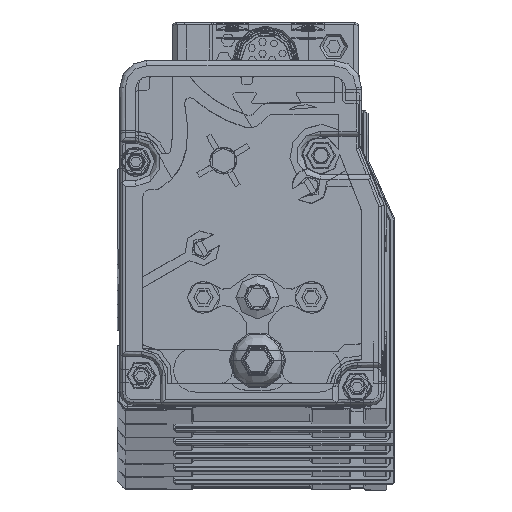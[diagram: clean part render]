
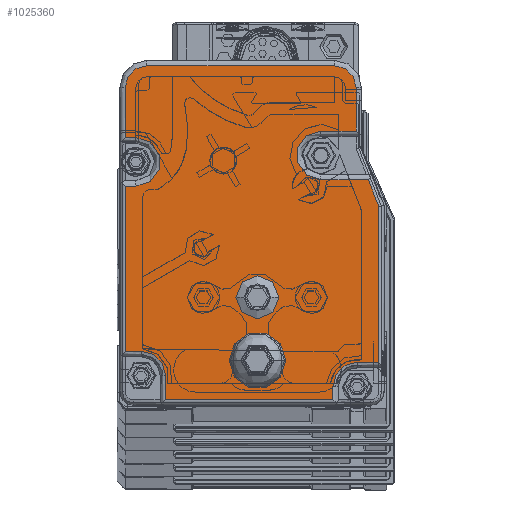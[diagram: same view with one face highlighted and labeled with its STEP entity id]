
A CAD part, top view. The second image highlights one B-rep face of the part: STEP entity #1025360.
In plain terms, the highlighted planar face has unit normal (0, 0, 1).
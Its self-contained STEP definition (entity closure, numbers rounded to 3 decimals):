
#1023250=CARTESIAN_POINT('',(-20.265,1.758,
3972.39));
#1023260=DIRECTION('',(0.,0.,-1.));
#1023270=DIRECTION('',(-1.,0.,0.));
#1023280=AXIS2_PLACEMENT_3D('',#1023250,#1023260,#1023270);
#1023290=PLANE('',#1023280);
#1023300=CARTESIAN_POINT('',(-44.056,10.421,
3972.39));
#1023310=DIRECTION('',(0.,0.,-1.));
#1023320=DIRECTION('',(-1.,0.,0.));
#1023330=AXIS2_PLACEMENT_3D('',#1023300,#1023310,#1023320);
#1023340=CIRCLE('',#1023330,5.);
#1023350=CARTESIAN_POINT('',(-49.056,10.421,
3972.39));
#1023360=VERTEX_POINT('',#1023350);
#1023370=CARTESIAN_POINT('',(-39.056,10.421,
3972.39));
#1023380=VERTEX_POINT('',#1023370);
#1023390=EDGE_CURVE('',#1023360,#1023380,#1023340,.T.);
#1023400=ORIENTED_EDGE('',*,*,#1023390,.T.);
#1023410=EDGE_CURVE('',#1023380,#1023360,#1023340,.T.);
#1023420=ORIENTED_EDGE('',*,*,#1023410,.T.);
#1023430=EDGE_LOOP('',(#1023420,#1023400));
#1023440=FACE_BOUND('',#1023430,.T.);
#1023450=CARTESIAN_POINT('',(-44.059,22.124,
3972.39));
#1023460=DIRECTION('',(0.,0.,1.));
#1023470=DIRECTION('',(-1.,0.,0.));
#1023480=AXIS2_PLACEMENT_3D('',#1023450,#1023460,#1023470);
#1023490=CIRCLE('',#1023480,4.);
#1023500=CARTESIAN_POINT('',(-40.059,22.124,
3972.39));
#1023510=VERTEX_POINT('',#1023500);
#1023520=CARTESIAN_POINT('',(-48.059,22.124,
3972.39));
#1023530=VERTEX_POINT('',#1023520);
#1023540=EDGE_CURVE('',#1023510,#1023530,#1023490,.T.);
#1023550=ORIENTED_EDGE('',*,*,#1023540,.F.);
#1023560=EDGE_CURVE('',#1023530,#1023510,#1023490,.T.);
#1023570=ORIENTED_EDGE('',*,*,#1023560,.F.);
#1023580=EDGE_LOOP('',(#1023570,#1023550));
#1023590=FACE_BOUND('',#1023580,.T.);
#1023600=CARTESIAN_POINT('',(-61.059,2.124,
3972.39));
#1023610=DIRECTION('',(0.,-1.,0.));
#1023620=VECTOR('',#1023610,1.);
#1023630=LINE('',#1023600,#1023620);
#1023640=CARTESIAN_POINT('',(-61.059,7.624,
3972.39));
#1023650=VERTEX_POINT('',#1023640);
#1023660=CARTESIAN_POINT('',(-61.059,3.124,
3972.39));
#1023670=VERTEX_POINT('',#1023660);
#1023680=EDGE_CURVE('',#1023650,#1023670,#1023630,.T.);
#1023690=ORIENTED_EDGE('',*,*,#1023680,.T.);
#1023700=CARTESIAN_POINT('',(-65.559,7.624,
3972.39));
#1023710=DIRECTION('',(0.,0.,-1.));
#1023720=DIRECTION('',(-1.,0.,0.));
#1023730=AXIS2_PLACEMENT_3D('',#1023700,#1023710,#1023720);
#1023740=CIRCLE('',#1023730,4.5);
#1023750=CARTESIAN_POINT('',(-65.559,12.124,
3972.39));
#1023760=VERTEX_POINT('',#1023750);
#1023770=EDGE_CURVE('',#1023760,#1023650,#1023740,.T.);
#1023780=ORIENTED_EDGE('',*,*,#1023770,.T.);
#1023790=CARTESIAN_POINT('',(-20.559,12.124,
3972.39));
#1023800=DIRECTION('',(1.,0.,0.));
#1023810=VECTOR('',#1023800,1.);
#1023820=LINE('',#1023790,#1023810);
#1023830=CARTESIAN_POINT('',(-68.559,12.124,
3972.39));
#1023840=VERTEX_POINT('',#1023830);
#1023850=EDGE_CURVE('',#1023840,#1023760,#1023820,.T.);
#1023860=ORIENTED_EDGE('',*,*,#1023850,.T.);
#1023870=CARTESIAN_POINT('',(-68.559,2.124,
3972.39));
#1023880=DIRECTION('',(0.,-1.,0.));
#1023890=VECTOR('',#1023880,1.);
#1023900=LINE('',#1023870,#1023890);
#1023910=CARTESIAN_POINT('',(-68.559,42.727,
3972.39));
#1023920=VERTEX_POINT('',#1023910);
#1023930=EDGE_CURVE('',#1023920,#1023840,#1023900,.T.);
#1023940=ORIENTED_EDGE('',*,*,#1023930,.T.);
#1023950=CARTESIAN_POINT('',(-20.559,42.727,
3972.39));
#1023960=DIRECTION('',(-1.,0.,0.));
#1023970=VECTOR('',#1023960,1.);
#1023980=LINE('',#1023950,#1023970);
#1023990=CARTESIAN_POINT('',(-66.559,42.727,
3972.39));
#1024000=VERTEX_POINT('',#1023990);
#1024010=EDGE_CURVE('',#1024000,#1023920,#1023980,.T.);
#1024020=ORIENTED_EDGE('',*,*,#1024010,.T.);
#1024030=CARTESIAN_POINT('',(-66.559,47.227,
3972.39));
#1024040=DIRECTION('',(0.,0.,-1.));
#1024050=DIRECTION('',(-1.,0.,0.));
#1024060=AXIS2_PLACEMENT_3D('',#1024030,#1024040,#1024050);
#1024070=CIRCLE('',#1024060,4.5);
#1024080=CARTESIAN_POINT('',(-66.559,51.727,
3972.39));
#1024090=VERTEX_POINT('',#1024080);
#1024100=EDGE_CURVE('',#1024090,#1024000,#1024070,.T.);
#1024110=ORIENTED_EDGE('',*,*,#1024100,.T.);
#1024120=CARTESIAN_POINT('',(-20.559,51.727,
3972.39));
#1024130=DIRECTION('',(1.,0.,0.));
#1024140=VECTOR('',#1024130,1.);
#1024150=LINE('',#1024120,#1024140);
#1024160=CARTESIAN_POINT('',(-68.559,51.727,
3972.39));
#1024170=VERTEX_POINT('',#1024160);
#1024180=EDGE_CURVE('',#1024170,#1024090,#1024150,.T.);
#1024190=ORIENTED_EDGE('',*,*,#1024180,.T.);
#1024200=CARTESIAN_POINT('',(-68.559,2.124,
3972.39));
#1024210=DIRECTION('',(0.,-1.,0.));
#1024220=VECTOR('',#1024210,1.);
#1024230=LINE('',#1024200,#1024220);
#1024240=CARTESIAN_POINT('',(-68.559,61.024,
3972.39));
#1024250=VERTEX_POINT('',#1024240);
#1024260=EDGE_CURVE('',#1024250,#1024170,#1024230,.T.);
#1024270=ORIENTED_EDGE('',*,*,#1024260,.T.);
#1024280=CARTESIAN_POINT('',(-64.559,61.024,
3972.39));
#1024290=DIRECTION('',(0.,0.,1.));
#1024300=DIRECTION('',(1.,0.,0.));
#1024310=AXIS2_PLACEMENT_3D('',#1024280,#1024290,#1024300);
#1024320=CIRCLE('',#1024310,4.);
#1024330=CARTESIAN_POINT('',(-64.559,65.024,
3972.39));
#1024340=VERTEX_POINT('',#1024330);
#1024350=EDGE_CURVE('',#1024340,#1024250,#1024320,.T.);
#1024360=ORIENTED_EDGE('',*,*,#1024350,.T.);
#1024370=CARTESIAN_POINT('',(-20.559,65.024,
3972.39));
#1024380=DIRECTION('',(-1.,0.,0.));
#1024390=VECTOR('',#1024380,1.);
#1024400=LINE('',#1024370,#1024390);
#1024410=CARTESIAN_POINT('',(-29.759,65.024,
3972.39));
#1024420=VERTEX_POINT('',#1024410);
#1024430=EDGE_CURVE('',#1024420,#1024340,#1024400,.T.);
#1024440=ORIENTED_EDGE('',*,*,#1024430,.T.);
#1024450=CARTESIAN_POINT('',(-29.759,61.024,
3972.39));
#1024460=DIRECTION('',(0.,0.,1.));
#1024470=DIRECTION('',(1.,0.,0.));
#1024480=AXIS2_PLACEMENT_3D('',#1024450,#1024460,#1024470);
#1024490=CIRCLE('',#1024480,4.);
#1024500=CARTESIAN_POINT('',(-25.759,61.024,
3972.39));
#1024510=VERTEX_POINT('',#1024500);
#1024520=EDGE_CURVE('',#1024510,#1024420,#1024490,.T.);
#1024530=ORIENTED_EDGE('',*,*,#1024520,.T.);
#1024540=CARTESIAN_POINT('',(-25.759,2.124,
3972.39));
#1024550=DIRECTION('',(0.,1.,0.));
#1024560=VECTOR('',#1024550,1.);
#1024570=LINE('',#1024540,#1024560);
#1024580=CARTESIAN_POINT('',(-25.759,52.924,
3972.39));
#1024590=VERTEX_POINT('',#1024580);
#1024600=EDGE_CURVE('',#1024590,#1024510,#1024570,.T.);
#1024610=ORIENTED_EDGE('',*,*,#1024600,.T.);
#1024620=CARTESIAN_POINT('',(-20.559,52.924,
3972.39));
#1024630=DIRECTION('',(-1.,0.,0.));
#1024640=VECTOR('',#1024630,1.);
#1024650=LINE('',#1024620,#1024640);
#1024660=CARTESIAN_POINT('',(-32.309,52.924,
3972.39));
#1024670=VERTEX_POINT('',#1024660);
#1024680=EDGE_CURVE('',#1024590,#1024670,#1024650,.T.);
#1024690=ORIENTED_EDGE('',*,*,#1024680,.F.);
#1024700=CARTESIAN_POINT('',(-32.309,48.424,
3972.39));
#1024710=DIRECTION('',(0.,0.,-1.));
#1024720=DIRECTION('',(-1.,0.,0.));
#1024730=AXIS2_PLACEMENT_3D('',#1024700,#1024710,#1024720);
#1024740=CIRCLE('',#1024730,4.5);
#1024750=CARTESIAN_POINT('',(-32.309,43.924,
3972.39));
#1024760=VERTEX_POINT('',#1024750);
#1024770=EDGE_CURVE('',#1024760,#1024670,#1024740,.T.);
#1024780=ORIENTED_EDGE('',*,*,#1024770,.T.);
#1024790=CARTESIAN_POINT('',(-20.559,43.924,
3972.39));
#1024800=DIRECTION('',(-1.,0.,0.));
#1024810=VECTOR('',#1024800,1.);
#1024820=LINE('',#1024790,#1024810);
#1024830=CARTESIAN_POINT('',(-23.499,43.924,
3972.39));
#1024840=VERTEX_POINT('',#1024830);
#1024850=EDGE_CURVE('',#1024840,#1024760,#1024820,.T.);
#1024860=ORIENTED_EDGE('',*,*,#1024850,.T.);
#1024870=CARTESIAN_POINT('',(-7.243,2.124,
3972.39));
#1024880=DIRECTION('',(0.362,-0.932,0.));
#1024890=VECTOR('',#1024880,1.);
#1024900=LINE('',#1024870,#1024890);
#1024910=CARTESIAN_POINT('',(-21.559,38.937,
3972.39));
#1024920=VERTEX_POINT('',#1024910);
#1024930=EDGE_CURVE('',#1024840,#1024920,#1024900,.T.);
#1024940=ORIENTED_EDGE('',*,*,#1024930,.F.);
#1024950=CARTESIAN_POINT('',(-21.559,2.124,
3972.39));
#1024960=DIRECTION('',(0.,-1.,0.));
#1024970=VECTOR('',#1024960,1.);
#1024980=LINE('',#1024950,#1024970);
#1024990=CARTESIAN_POINT('',(-21.559,10.124,
3972.39));
#1025000=VERTEX_POINT('',#1024990);
#1025010=EDGE_CURVE('',#1024920,#1025000,#1024980,.T.);
#1025020=ORIENTED_EDGE('',*,*,#1025010,.F.);
#1025030=CARTESIAN_POINT('',(-20.559,10.124,
3972.39));
#1025040=DIRECTION('',(1.,0.,0.));
#1025050=VECTOR('',#1025040,1.);
#1025060=LINE('',#1025030,#1025050);
#1025070=CARTESIAN_POINT('',(-25.559,10.124,
3972.39));
#1025080=VERTEX_POINT('',#1025070);
#1025090=EDGE_CURVE('',#1025080,#1025000,#1025060,.T.);
#1025100=ORIENTED_EDGE('',*,*,#1025090,.T.);
#1025110=CARTESIAN_POINT('',(-25.559,5.624,
3972.39));
#1025120=DIRECTION('',(0.,0.,-1.));
#1025130=DIRECTION('',(-1.,0.,0.));
#1025140=AXIS2_PLACEMENT_3D('',#1025110,#1025120,#1025130);
#1025150=CIRCLE('',#1025140,4.5);
#1025160=CARTESIAN_POINT('',(-30.059,5.624,
3972.39));
#1025170=VERTEX_POINT('',#1025160);
#1025180=EDGE_CURVE('',#1025170,#1025080,#1025150,.T.);
#1025190=ORIENTED_EDGE('',*,*,#1025180,.T.);
#1025200=CARTESIAN_POINT('',(-30.059,2.124,
3972.39));
#1025210=DIRECTION('',(0.,1.,0.));
#1025220=VECTOR('',#1025210,1.);
#1025230=LINE('',#1025200,#1025220);
#1025240=CARTESIAN_POINT('',(-30.059,3.124,
3972.39));
#1025250=VERTEX_POINT('',#1025240);
#1025260=EDGE_CURVE('',#1025250,#1025170,#1025230,.T.);
#1025270=ORIENTED_EDGE('',*,*,#1025260,.T.);
#1025280=CARTESIAN_POINT('',(-20.559,3.124,
3972.39));
#1025290=DIRECTION('',(-1.,0.,0.));
#1025300=VECTOR('',#1025290,1.);
#1025310=LINE('',#1025280,#1025300);
#1025320=EDGE_CURVE('',#1025250,#1023670,#1025310,.T.);
#1025330=ORIENTED_EDGE('',*,*,#1025320,.F.);
#1025340=EDGE_LOOP('',(#1025330,#1025270,#1025190,#1025100,#1025020,
#1024940,#1024860,#1024780,#1024690,#1024610,#1024530,#1024440,#1024360,
#1024270,#1024190,#1024110,#1024020,#1023940,#1023860,#1023780,#1023690)
);
#1025350=FACE_OUTER_BOUND('',#1025340,.T.);
#1025360=ADVANCED_FACE('',(#1023440,#1023590,#1025350),#1023290,.F.);
